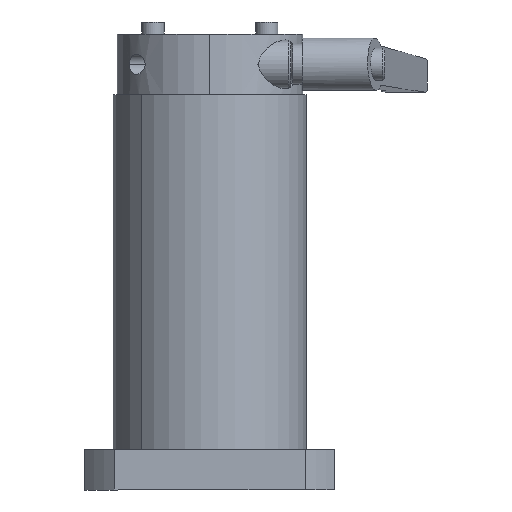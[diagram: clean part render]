
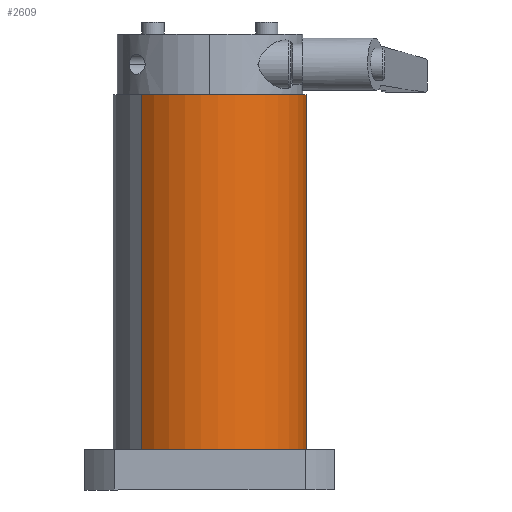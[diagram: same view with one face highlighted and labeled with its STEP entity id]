
A CAD part, front view. The second image highlights one B-rep face of the part: STEP entity #2609.
In plain terms, the highlighted cylindrical face has radius 24 mm (diameter 48 mm), a partial arc.
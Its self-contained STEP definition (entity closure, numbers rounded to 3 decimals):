
#67 = CIRCLE ( 'NONE', #5016, 24. ) ;
#708 = CARTESIAN_POINT ( 'NONE',  ( -8.443, 1.108, 115.309 ) ) ;
#1449 = DIRECTION ( 'NONE',  ( 0.707, 0.707, 0. ) ) ;
#1483 = CARTESIAN_POINT ( 'NONE',  ( -25.414, -15.862, 159.309 ) ) ;
#1541 = CARTESIAN_POINT ( 'NONE',  ( 8.528, 18.079, 159.309 ) ) ;
#1970 = CARTESIAN_POINT ( 'NONE',  ( -25.414, -15.862, 115.309 ) ) ;
#2289 = FACE_OUTER_BOUND ( 'NONE', #4066, .T. ) ;
#2609 = ADVANCED_FACE ( 'NONE', ( #2289 ), #8301, .T. ) ;
#2665 = LINE ( 'NONE', #3368, #6788 ) ;
#2885 = EDGE_CURVE ( 'NONE', #5153, #3050, #5394, .T. ) ;
#2987 = AXIS2_PLACEMENT_3D ( 'NONE', #708, #7460, #1449 ) ;
#3050 = VERTEX_POINT ( 'NONE', #6707 ) ;
#3368 = CARTESIAN_POINT ( 'NONE',  ( 8.528, 18.079, 115.309 ) ) ;
#3472 = EDGE_CURVE ( 'NONE', #8104, #6802, #2665, .T. ) ;
#3510 = DIRECTION ( 'NONE',  ( 0., 0., -1. ) ) ;
#3984 = CARTESIAN_POINT ( 'NONE',  ( -8.443, 1.108, 71.309 ) ) ;
#4066 = EDGE_LOOP ( 'NONE', ( #6538, #5104, #8582, #10751 ) ) ;
#4334 = CIRCLE ( 'NONE', #5385, 24. ) ;
#5016 = AXIS2_PLACEMENT_3D ( 'NONE', #3984, #10745, #6608 ) ;
#5104 = ORIENTED_EDGE ( 'NONE', *, *, #2885, .T. ) ;
#5153 = VERTEX_POINT ( 'NONE', #1483 ) ;
#5331 = DIRECTION ( 'NONE',  ( 0., 0., -1. ) ) ;
#5353 = CARTESIAN_POINT ( 'NONE',  ( -8.443, 1.108, 159.309 ) ) ;
#5385 = AXIS2_PLACEMENT_3D ( 'NONE', #5353, #3510, #7899 ) ;
#5394 = LINE ( 'NONE', #1970, #9177 ) ;
#6538 = ORIENTED_EDGE ( 'NONE', *, *, #8770, .T. ) ;
#6608 = DIRECTION ( 'NONE',  ( 0.707, 0.707, 0. ) ) ;
#6707 = CARTESIAN_POINT ( 'NONE',  ( -25.414, -15.862, 71.309 ) ) ;
#6788 = VECTOR ( 'NONE', #7590, 1000. ) ;
#6802 = VERTEX_POINT ( 'NONE', #7905 ) ;
#7140 = EDGE_CURVE ( 'NONE', #6802, #3050, #67, .T. ) ;
#7460 = DIRECTION ( 'NONE',  ( 0., 0., -1. ) ) ;
#7590 = DIRECTION ( 'NONE',  ( 0., 0., -1. ) ) ;
#7899 = DIRECTION ( 'NONE',  ( 0.707, 0.707, 0. ) ) ;
#7905 = CARTESIAN_POINT ( 'NONE',  ( 8.528, 18.079, 71.309 ) ) ;
#8104 = VERTEX_POINT ( 'NONE', #1541 ) ;
#8301 = CYLINDRICAL_SURFACE ( 'NONE', #2987, 24. ) ;
#8582 = ORIENTED_EDGE ( 'NONE', *, *, #7140, .F. ) ;
#8770 = EDGE_CURVE ( 'NONE', #8104, #5153, #4334, .T. ) ;
#9177 = VECTOR ( 'NONE', #5331, 1000. ) ;
#10745 = DIRECTION ( 'NONE',  ( 0., 0., -1. ) ) ;
#10751 = ORIENTED_EDGE ( 'NONE', *, *, #3472, .F. ) ;
